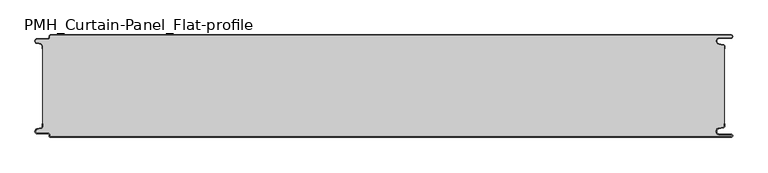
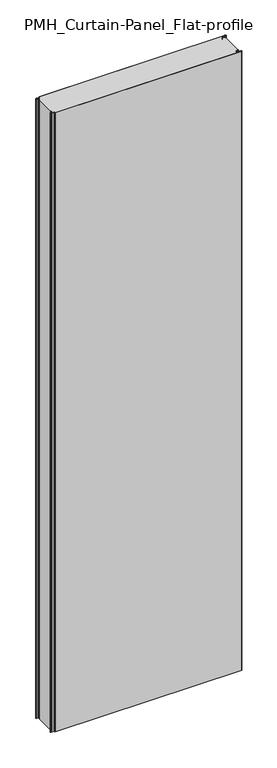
"""IFC4 building model written with IfcOpenShell, lengths in millimetres: plate geometry, PMH_Curtain-Panel_Flat-profile : ACH_PMH_Acoustic-Sectioning-Panel_150M."""

from ifc_helpers import new_model, si_unit, point, frame, frame_2d, origin, origin_with_axes, place, context, project, spatial, polyline, circle_curve, trimmed, segment, composite_curve, outline, extrude, source, transform, mapped, element, save
from ifc_brep_helpers import plane_surface, cylinder_surface, revolved_surface, advanced_brep


def pmh_curtain_panel_flat_profile_b9f61fe7(model_context):
    return source(origin(), model_context, "Body", "SolidModel", [
        advanced_brep(
        [(508.1, 0.0, 3500.0), (510.6, 2.5000002, 3500.0), (508.1, 5.0, 3500.0), (491.1, 5.0, 3500.0), (490.405407, 12.939231, 3500.0), (496.8514855, 14.0758491, 3500.0), (499.0, 16.6363492, 3500.0), (499.0, 20.0, 3500.0), (498.2, 20.0, 3500.0), (498.2, 16.6363492, 3500.0), (496.7125669, 14.8636953, 3500.0), (490.2664884, 13.7270771, 3500.0), (491.1, 4.2, 3500.0), (508.1, 4.2, 3500.0), (508.1, 0.8, 3500.0), (-487.4, 0.8, 3500.0), (-488.6, 2.0, 3500.0), (-488.6, 3.4, 3500.0), (-491.4, 6.2, 3500.0), (-506.9, 6.2, 3500.0), (-507.529863, 11.7282362, 3500.0), (-501.370137, 13.150321, 3500.0), (-499.2, 15.878557, 3500.0), (-499.2, 20.0, 3500.0), (-500.0, 20.0, 3500.0), (-500.0, 15.878557, 3500.0), (-501.5500978, 13.9298169, 3500.0), (-507.7098239, 12.507732, 3500.0), (-506.9, 5.4, 3500.0), (-491.4, 5.4, 3500.0), (-489.4, 3.4, 3500.0), (-489.4, 2.0, 3500.0), (-487.4, 0.0, 3500.0), (-487.4, 0.0, 0.0), (-489.4, 2.0, 0.0), (-489.4, 3.4, 0.0), (-491.4, 5.4, 0.0), (-506.9, 5.4, 0.0), (-507.7098239, 12.5077322, 0.0), (-501.5500979, 13.929817, 0.0), (-500.0, 15.878557, 0.0), (-500.0, 20.0, 0.0), (-499.2, 20.0, 0.0), (-499.2, 15.878557, 0.0), (-501.370137, 13.1503208, 0.0), (-507.529863, 11.728236, 0.0), (-506.9, 6.2, 0.0), (-491.4, 6.2, 0.0), (-488.6, 3.4, 0.0), (-488.6, 2.0, 0.0), (-487.4, 0.8, 0.0), (508.1, 0.8, 0.0), (508.1, 4.2, 0.0), (491.1, 4.2, 0.0), (490.2664884, 13.7270771, 0.0), (496.7125669, 14.8636953, 0.0), (498.2, 16.6363492, 0.0), (498.2, 20.0, 0.0), (499.0, 20.0, 0.0), (499.0, 16.6363492, 0.0), (496.8514855, 14.0758491, 0.0), (490.405407, 12.939231, 0.0), (491.1, 5.0, 0.0), (508.1, 5.0, 0.0), (510.6, 2.4999998, 0.0), (508.1, 0.0, 0.0)],
        [
            (0, 1, circle_curve(frame((508.1, 2.5, 3500.0), z_axis=(0.0, 0.0, 1.0), x_axis=(1.0, 0.0, 0.0)), 2.5)),
            (1, 2, circle_curve(frame((508.1, 2.5, 3500.0), z_axis=(0.0, 0.0, 1.0), x_axis=(1.0, 0.0, 0.0)), 2.5)),
            (2, 3),
            (3, 4, circle_curve(frame((491.1, 9.0, 3500.0), z_axis=(0.0, 0.0, -1.0), x_axis=(1.0, 0.0, 0.0)), 4.0)),
            (4, 5),
            (5, 6, circle_curve(frame((496.4, 16.6363492, 3500.0), z_axis=(0.0, 0.0, 1.0), x_axis=(1.0, 0.0, 0.0)), 2.6)),
            (6, 7),
            (7, 8),
            (8, 9),
            (9, 10, circle_curve(frame((496.4, 16.6363492, 3500.0), z_axis=(0.0, 0.0, -1.0), x_axis=(1.0, 0.0, 0.0)), 1.8)),
            (10, 11),
            (11, 12, circle_curve(frame((491.1, 9.0, 3500.0), z_axis=(0.0, 0.0, 1.0), x_axis=(1.0, 0.0, 0.0)), 4.8)),
            (12, 13),
            (13, 14, circle_curve(frame((508.1, 2.5, 3500.0), z_axis=(0.0, 0.0, -1.0), x_axis=(1.0, 0.0, 0.0)), 1.7)),
            (14, 15),
            (15, 16, circle_curve(frame((-487.4, 2.0, 3500.0), z_axis=(0.0, 0.0, -1.0), x_axis=(1.0, 0.0, 0.0)), 1.2)),
            (16, 17),
            (17, 18, circle_curve(frame((-491.4, 3.4, 3500.0), z_axis=(0.0, 0.0, 1.0), x_axis=(1.0, 0.0, 0.0)), 2.8)),
            (18, 19),
            (19, 20, circle_curve(frame((-506.9, 9.0, 3500.0), z_axis=(0.0, 0.0, -1.0), x_axis=(1.0, 0.0, 0.0)), 2.8)),
            (20, 21),
            (21, 22, circle_curve(frame((-502.0, 15.878557, 3500.0), z_axis=(0.0, 0.0, 1.0), x_axis=(1.0, 0.0, 0.0)), 2.8)),
            (22, 23),
            (23, 24),
            (24, 25),
            (25, 26, circle_curve(frame((-502.0, 15.878557, 3500.0), z_axis=(0.0, 0.0, -1.0), x_axis=(1.0, 0.0, 0.0)), 2.0)),
            (26, 27),
            (27, 28, circle_curve(frame((-506.9, 9.0, 3500.0), z_axis=(0.0, 0.0, 1.0), x_axis=(1.0, 0.0, 0.0)), 3.6)),
            (28, 29),
            (29, 30, circle_curve(frame((-491.4, 3.4, 3500.0), z_axis=(0.0, 0.0, -1.0), x_axis=(1.0, 0.0, 0.0)), 2.0)),
            (30, 31),
            (31, 32, circle_curve(frame((-487.4, 2.0, 3500.0), z_axis=(0.0, 0.0, 1.0), x_axis=(1.0, 0.0, 0.0)), 2.0)),
            (32, 0),
            (33, 34, circle_curve(frame((-487.4, 2.0, 0.0), z_axis=(0.0, 0.0, -1.0), x_axis=(1.0, 0.0, 0.0)), 2.0)),
            (34, 35),
            (35, 36, circle_curve(frame((-491.4, 3.4, 0.0), z_axis=(0.0, 0.0, 1.0), x_axis=(1.0, 0.0, 0.0)), 2.0)),
            (36, 37),
            (37, 38, circle_curve(frame((-506.9, 9.0, 0.0), z_axis=(0.0, 0.0, -1.0), x_axis=(1.0, 0.0, 0.0)), 3.6)),
            (38, 39),
            (39, 40, circle_curve(frame((-502.0, 15.878557, 0.0), z_axis=(0.0, 0.0, 1.0), x_axis=(1.0, 0.0, 0.0)), 2.0)),
            (40, 41),
            (41, 42),
            (42, 43),
            (43, 44, circle_curve(frame((-502.0, 15.878557, 0.0), z_axis=(0.0, 0.0, -1.0), x_axis=(1.0, 0.0, 0.0)), 2.8)),
            (44, 45),
            (45, 46, circle_curve(frame((-506.9, 9.0, 0.0), z_axis=(0.0, 0.0, 1.0), x_axis=(1.0, 0.0, 0.0)), 2.8)),
            (46, 47),
            (47, 48, circle_curve(frame((-491.4, 3.4, 0.0), z_axis=(0.0, 0.0, -1.0), x_axis=(1.0, 0.0, 0.0)), 2.8)),
            (48, 49),
            (49, 50, circle_curve(frame((-487.4, 2.0, 0.0), z_axis=(0.0, 0.0, 1.0), x_axis=(1.0, 0.0, 0.0)), 1.2)),
            (50, 51),
            (51, 52, circle_curve(frame((508.1, 2.5, 0.0), z_axis=(0.0, 0.0, 1.0), x_axis=(1.0, 0.0, 0.0)), 1.7)),
            (52, 53),
            (53, 54, circle_curve(frame((491.1, 9.0, 0.0), z_axis=(0.0, 0.0, -1.0), x_axis=(1.0, 0.0, 0.0)), 4.8)),
            (54, 55),
            (55, 56, circle_curve(frame((496.4, 16.6363492, 0.0), z_axis=(0.0, 0.0, 1.0), x_axis=(1.0, 0.0, 0.0)), 1.8)),
            (56, 57),
            (57, 58),
            (58, 59),
            (59, 60, circle_curve(frame((496.4, 16.6363492, 0.0), z_axis=(0.0, 0.0, -1.0), x_axis=(1.0, 0.0, 0.0)), 2.6)),
            (60, 61),
            (61, 62, circle_curve(frame((491.1, 9.0, 0.0), z_axis=(0.0, 0.0, 1.0), x_axis=(1.0, 0.0, 0.0)), 4.0)),
            (62, 63),
            (63, 64, circle_curve(frame((508.1, 2.5, 0.0), z_axis=(0.0, 0.0, -1.0), x_axis=(1.0, 0.0, 0.0)), 2.5)),
            (64, 65, circle_curve(frame((508.1, 2.5, 0.0), z_axis=(0.0, 0.0, -1.0), x_axis=(1.0, 0.0, 0.0)), 2.5)),
            (65, 33),
            (31, 34),
            (33, 32),
            (30, 35),
            (29, 36),
            (28, 37),
            (27, 38),
            (26, 39),
            (25, 40),
            (24, 41),
            (23, 42),
            (22, 43),
            (21, 44),
            (20, 45),
            (19, 46),
            (18, 47),
            (17, 48),
            (16, 49),
            (15, 50),
            (14, 51),
            (13, 52),
            (12, 53),
            (11, 54),
            (10, 55),
            (9, 56),
            (8, 57),
            (7, 58),
            (6, 59),
            (5, 60),
            (4, 61),
            (3, 62),
            (2, 63),
            (0, 65),
        ],
        [
            plane_surface(frame((-500.0, 0.0, 3500.0), z_axis=(0.0, 0.0, 1.0), x_axis=(0.0, -1.0, 0.0))),
            plane_surface(frame((-500.0, 0.0, 0.0), z_axis=(0.0, 0.0, -1.0), x_axis=(0.0, -1.0, 0.0))),
            cylinder_surface(frame((-487.4, 2.0, 3500.0), z_axis=(0.0, 0.0, 1.0), x_axis=(1.0, 0.0, 0.0)), 2.0),
            plane_surface(frame((-489.4, 2.0, 3500.0), z_axis=(-1.0, 0.0, 0.0), x_axis=(0.0, 0.0, -1.0))),
            revolved_surface(polyline([(-489.4, 3.4, 0.0), (-489.4, 3.4, 3500.0)]), (-491.4, 3.4, 3500.0), (0.0, 0.0, -1.0)),
            plane_surface(frame((-491.4, 5.4, 3500.0), z_axis=(0.0, -1.0, 0.0), x_axis=(0.0, 0.0, -1.0))),
            cylinder_surface(frame((-506.9, 9.0, 3500.0), z_axis=(0.0, 0.0, 1.0), x_axis=(1.0, 0.0, 0.0)), 3.6),
            plane_surface(frame((-507.7098239, 12.507732, 3500.0), z_axis=(-0.2249510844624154, 0.9743700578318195, 0.0), x_axis=(0.0, 0.0, -1.0))),
            revolved_surface(polyline([(-500.0, 15.878557, 0.0), (-500.0, 15.878557, 3500.0)]), (-502.0, 15.878557, 3500.0), (0.0, 0.0, -1.0)),
            plane_surface(frame((-500.0, 15.878557, 3500.0), z_axis=(-1.0, 0.0, 0.0), x_axis=(0.0, 0.0, -1.0))),
            plane_surface(frame((-500.0, 20.0, 3500.0), z_axis=(0.0, 1.0, 0.0), x_axis=(0.0, 0.0, -1.0))),
            plane_surface(frame((-499.2, 20.0, 3500.0), z_axis=(1.0, 0.0, 0.0), x_axis=(0.0, 0.0, -1.0))),
            cylinder_surface(frame((-502.0, 15.878557, 3500.0), z_axis=(0.0, 0.0, 1.0), x_axis=(1.0, 0.0, 0.0)), 2.8),
            plane_surface(frame((-501.370137, 13.150321, 3500.0), z_axis=(0.22495108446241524, -0.9743700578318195, 0.0), x_axis=(0.0, 0.0, -1.0))),
            revolved_surface(polyline([(-504.09999999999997, 9.0, 0.0), (-504.09999999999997, 9.0, 3500.0)]), (-506.9, 9.0, 3500.0), (0.0, 0.0, -1.0)),
            plane_surface(frame((-506.9, 6.2, 3500.0), z_axis=(0.0, 1.0, 0.0), x_axis=(0.0, 0.0, -1.0))),
            cylinder_surface(frame((-491.4, 3.4, 3500.0), z_axis=(0.0, 0.0, 1.0), x_axis=(1.0, 0.0, 0.0)), 2.8),
            plane_surface(frame((-488.6, 3.4, 3500.0), z_axis=(1.0, 0.0, 0.0), x_axis=(0.0, 0.0, -1.0))),
            revolved_surface(polyline([(-486.2, 2.0, 0.0), (-486.2, 2.0, 3500.0)]), (-487.4, 2.0, 3500.0), (0.0, 0.0, -1.0)),
            plane_surface(frame((-487.4, 0.8, 3500.0), z_axis=(0.0, 1.0, 0.0), x_axis=(0.0, 0.0, -1.0))),
            revolved_surface(polyline([(509.8, 2.5, 0.0), (509.8, 2.5, 3500.0)]), (508.1, 2.5, 3500.0), (0.0, 0.0, -1.0)),
            plane_surface(frame((508.1, 4.2, 3500.0), z_axis=(0.0, -1.0, 0.0), x_axis=(0.0, 0.0, -1.0))),
            cylinder_surface(frame((491.1, 9.0, 3500.0), z_axis=(0.0, 0.0, 1.0), x_axis=(1.0, 0.0, 0.0)), 4.8),
            plane_surface(frame((490.2664884, 13.7270771, 3500.0), z_axis=(-0.17364826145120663, 0.984807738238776, 0.0), x_axis=(0.0, 0.0, -1.0))),
            revolved_surface(polyline([(498.2, 16.6363492, 0.0), (498.2, 16.6363492, 3500.0)]), (496.4, 16.6363492, 3500.0), (0.0, 0.0, -1.0)),
            plane_surface(frame((498.2, 16.6363492, 3500.0), z_axis=(-1.0, 0.0, 0.0), x_axis=(0.0, 0.0, -1.0))),
            plane_surface(frame((498.2, 20.0, 3500.0), z_axis=(0.0, 1.0, 0.0), x_axis=(0.0, 0.0, -1.0))),
            plane_surface(frame((499.0, 20.0, 3500.0), z_axis=(1.0, 0.0, 0.0), x_axis=(0.0, 0.0, -1.0))),
            cylinder_surface(frame((496.4, 16.6363492, 3500.0), z_axis=(0.0, 0.0, 1.0), x_axis=(1.0, 0.0, 0.0)), 2.6),
            plane_surface(frame((496.8514855, 14.0758491, 3500.0), z_axis=(0.17364826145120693, -0.9848077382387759, 0.0), x_axis=(0.0, 0.0, -1.0))),
            revolved_surface(polyline([(495.1, 9.0, 0.0), (495.1, 9.0, 3500.0)]), (491.1, 9.0, 3500.0), (0.0, 0.0, -1.0)),
            plane_surface(frame((491.1, 5.0, 3500.0), z_axis=(0.0, 1.0, 0.0), x_axis=(0.0, 0.0, -1.0))),
            cylinder_surface(frame((508.1, 2.5, 3500.0), z_axis=(0.0, 0.0, 1.0), x_axis=(1.0, 0.0, 0.0)), 2.5),
            plane_surface(frame((490.5783588, 0.0, 3500.0), z_axis=(0.0, -1.0, 0.0), x_axis=(0.0, 0.0, -1.0))),
        ],
        [
            (0, [[1, 2, 3, 4, 5, 6, 7, 8, 9, 10, 11, 12, 13, 14, 15, 16, 17, 18, 19, 20, 21, 22, 23, 24, 25, 26, 27, 28, 29, 30, 31, 32, 33]]),
            (1, [[34, 35, 36, 37, 38, 39, 40, 41, 42, 43, 44, 45, 46, 47, 48, 49, 50, 51, 52, 53, 54, 55, 56, 57, 58, 59, 60, 61, 62, 63, 64, 65, 66]]),
            (2, [[67, -34, 68, -32]]),
            (3, [[69, -35, -67, -31]]),
            (4, [[70, -36, -69, -30]]),
            (5, [[71, -37, -70, -29]]),
            (6, [[72, -38, -71, -28]]),
            (7, [[73, -39, -72, -27]]),
            (8, [[74, -40, -73, -26]]),
            (9, [[75, -41, -74, -25]]),
            (10, [[76, -42, -75, -24]]),
            (11, [[77, -43, -76, -23]]),
            (12, [[78, -44, -77, -22]]),
            (13, [[79, -45, -78, -21]]),
            (14, [[80, -46, -79, -20]]),
            (15, [[81, -47, -80, -19]]),
            (16, [[82, -48, -81, -18]]),
            (17, [[83, -49, -82, -17]]),
            (18, [[84, -50, -83, -16]]),
            (19, [[85, -51, -84, -15]]),
            (20, [[86, -52, -85, -14]]),
            (21, [[87, -53, -86, -13]]),
            (22, [[88, -54, -87, -12]]),
            (23, [[89, -55, -88, -11]]),
            (24, [[90, -56, -89, -10]]),
            (25, [[91, -57, -90, -9]]),
            (26, [[92, -58, -91, -8]]),
            (27, [[93, -59, -92, -7]]),
            (28, [[94, -60, -93, -6]]),
            (29, [[95, -61, -94, -5]]),
            (30, [[96, -62, -95, -4]]),
            (31, [[97, -63, -96, -3]]),
            (32, [[-2, -1, 98, -65, -64, -97]]),
            (33, [[-68, -66, -98, -33]]),
        ],
    ),
        extrude(outline(composite_curve([segment(trimmed(circle_curve(frame_2d((-502.0, 134.1214426)), 2.8), [point((-499.2, 134.1214426))], [point((-501.370137, 136.8496788))], True, "CARTESIAN"), True, "CONTINUOUS"), segment(polyline([(-501.370137, 136.8496788), (-507.5298631, 138.2717638)]), True, "CONTINUOUS"), segment(trimmed(circle_curve(frame_2d((-506.9, 141.0)), 2.8), [point((-507.5298631, 138.2717638))], [point((-506.9, 143.8))], False, "CARTESIAN"), True, "CONTINUOUS"), segment(polyline([(-506.9, 143.8), (-491.4000001, 143.8)]), True, "CONTINUOUS"), segment(trimmed(circle_curve(frame_2d((-491.4000001, 146.6)), 2.8), [point((-491.4000001, 143.8))], [point((-488.6000001, 146.6))], True, "CARTESIAN"), True, "CONTINUOUS"), segment(polyline([(-488.6000001, 146.6), (-488.6000001, 148.0)]), True, "CONTINUOUS"), segment(trimmed(circle_curve(frame_2d((-487.4000001, 148.0)), 1.2), [point((-488.6000001, 148.0))], [point((-487.4000001, 149.2))], False, "CARTESIAN"), True, "CONTINUOUS"), segment(polyline([(-487.4000001, 149.2), (508.1, 149.2)]), True, "CONTINUOUS"), segment(trimmed(circle_curve(frame_2d((508.1, 147.5)), 1.7), [point((508.1, 149.2))], [point((508.1, 145.8))], False, "CARTESIAN"), True, "CONTINUOUS"), segment(polyline([(508.1, 145.8), (491.1, 145.8)]), True, "CONTINUOUS"), segment(trimmed(circle_curve(frame_2d((491.1, 141.0)), 4.8), [point((491.1, 145.8))], [point((490.2664883, 136.2729229))], True, "CARTESIAN"), True, "CONTINUOUS"), segment(polyline([(490.2664883, 136.2729229), (496.7125668, 135.1363047)]), True, "CONTINUOUS"), segment(trimmed(circle_curve(frame_2d((496.4, 133.3636508)), 1.8), [point((496.7125668, 135.1363047))], [point((498.2, 133.3636508))], False, "CARTESIAN"), True, "CONTINUOUS"), segment(polyline([(498.2, 133.3636508), (498.2, 16.6363492)]), True, "CONTINUOUS"), segment(trimmed(circle_curve(frame_2d((496.4, 16.6363492)), 1.8), [point((498.2, 16.6363492))], [point((496.7125668, 14.8636953))], False, "CARTESIAN"), True, "CONTINUOUS"), segment(polyline([(496.7125668, 14.8636953), (490.2664883, 13.7270771)]), True, "CONTINUOUS"), segment(trimmed(circle_curve(frame_2d((491.1, 9.0)), 4.8), [point((490.2664883, 13.7270771))], [point((491.1, 4.2))], True, "CARTESIAN"), True, "CONTINUOUS"), segment(polyline([(491.1, 4.2), (508.1, 4.2)]), True, "CONTINUOUS"), segment(trimmed(circle_curve(frame_2d((508.1, 2.5)), 1.7), [point((508.1, 4.2))], [point((508.1, 0.8))], False, "CARTESIAN"), True, "CONTINUOUS"), segment(polyline([(508.1, 0.8), (-487.4000001, 0.8)]), True, "CONTINUOUS"), segment(trimmed(circle_curve(frame_2d((-487.4000001, 2.0)), 1.2), [point((-487.4000001, 0.8))], [point((-488.6000001, 2.0))], False, "CARTESIAN"), True, "CONTINUOUS"), segment(polyline([(-488.6000001, 2.0), (-488.6000001, 3.4)]), True, "CONTINUOUS"), segment(trimmed(circle_curve(frame_2d((-491.4000001, 3.4)), 2.8), [point((-488.6000001, 3.4))], [point((-491.4000001, 6.2))], True, "CARTESIAN"), True, "CONTINUOUS"), segment(polyline([(-491.4000001, 6.2), (-506.9, 6.2)]), True, "CONTINUOUS"), segment(trimmed(circle_curve(frame_2d((-506.9, 9.0)), 2.8), [point((-506.9, 6.2))], [point((-507.5298631, 11.7282362))], False, "CARTESIAN"), True, "CONTINUOUS"), segment(polyline([(-507.5298631, 11.7282362), (-501.370137, 13.1503212)]), True, "CONTINUOUS"), segment(trimmed(circle_curve(frame_2d((-502.0, 15.8785573)), 2.8), [point((-501.370137, 13.1503212))], [point((-499.2, 15.8785573))], True, "CARTESIAN"), True, "CONTINUOUS"), segment(polyline([(-499.2, 15.8785573), (-499.2, 134.1214426)]), True, "CONTINUOUS")], self_intersect=False)), origin_with_axes(), (0.0, 0.0, 1.0), 3500.0),
        advanced_brep(
        [(-487.4, 150.0, 3500.0), (-489.4, 148.0, 3500.0), (-489.4, 146.6, 3500.0), (-491.4, 144.6, 3500.0), (-506.9, 144.6, 3500.0), (-507.7098239, 137.4922678, 3500.0), (-501.5500979, 136.070183, 3500.0), (-500.0, 134.121443, 3500.0), (-500.0, 130.0, 3500.0), (-499.2, 130.0, 3500.0), (-499.2, 134.121443, 3500.0), (-501.370137, 136.8496792, 3500.0), (-507.529863, 138.271764, 3500.0), (-506.9, 143.8, 3500.0), (-491.4, 143.8, 3500.0), (-488.6, 146.6, 3500.0), (-488.6, 148.0, 3500.0), (-487.4, 149.2, 3500.0), (508.1, 149.2, 3500.0), (508.1, 145.8, 3500.0), (491.1, 145.8, 3500.0), (490.2664884, 136.2729229, 3500.0), (496.7125669, 135.1363047, 3500.0), (498.2, 133.3636508, 3500.0), (498.2, 130.0, 3500.0), (499.0, 130.0, 3500.0), (499.0, 133.3636508, 3500.0), (496.8514855, 135.9241509, 3500.0), (490.405407, 137.060769, 3500.0), (491.1, 145.0, 3500.0), (508.1, 145.0, 3500.0), (510.6, 147.5000002, 3500.0), (508.1, 150.0, 3500.0), (508.1, 150.0, 0.0), (510.6, 147.4999998, 0.0), (508.1, 145.0, 0.0), (491.1, 145.0, 0.0), (490.405407, 137.060769, 0.0), (496.8514855, 135.9241509, 0.0), (499.0, 133.3636508, 0.0), (499.0, 130.0, 0.0), (498.2, 130.0, 0.0), (498.2, 133.3636508, 0.0), (496.7125669, 135.1363047, 0.0), (490.2664884, 136.2729229, 0.0), (491.1, 145.8, 0.0), (508.1, 145.8, 0.0), (508.1, 149.2, 0.0), (-487.4, 149.2, 0.0), (-488.6, 148.0, 0.0), (-488.6, 146.6, 0.0), (-491.4, 143.8, 0.0), (-506.9, 143.8, 0.0), (-507.529863, 138.2717638, 0.0), (-501.370137, 136.849679, 0.0), (-499.2, 134.121443, 0.0), (-499.2, 130.0, 0.0), (-500.0, 130.0, 0.0), (-500.0, 134.121443, 0.0), (-501.5500978, 136.0701831, 0.0), (-507.7098239, 137.492268, 0.0), (-506.9, 144.6, 0.0), (-491.4, 144.6, 0.0), (-489.4, 146.6, 0.0), (-489.4, 148.0, 0.0), (-487.4, 150.0, 0.0)],
        [
            (0, 1, circle_curve(frame((-487.4, 148.0, 3500.0), z_axis=(0.0, 0.0, 1.0), x_axis=(1.0, 0.0, 0.0)), 2.0)),
            (1, 2),
            (2, 3, circle_curve(frame((-491.4, 146.6, 3500.0), z_axis=(0.0, 0.0, -1.0), x_axis=(1.0, 0.0, 0.0)), 2.0)),
            (3, 4),
            (4, 5, circle_curve(frame((-506.9, 141.0, 3500.0), z_axis=(0.0, 0.0, 1.0), x_axis=(1.0, 0.0, 0.0)), 3.6)),
            (5, 6),
            (6, 7, circle_curve(frame((-502.0, 134.121443, 3500.0), z_axis=(0.0, 0.0, -1.0), x_axis=(1.0, 0.0, 0.0)), 2.0)),
            (7, 8),
            (8, 9),
            (9, 10),
            (10, 11, circle_curve(frame((-502.0, 134.121443, 3500.0), z_axis=(0.0, 0.0, 1.0), x_axis=(1.0, 0.0, 0.0)), 2.8)),
            (11, 12),
            (12, 13, circle_curve(frame((-506.9, 141.0, 3500.0), z_axis=(0.0, 0.0, -1.0), x_axis=(1.0, 0.0, 0.0)), 2.8)),
            (13, 14),
            (14, 15, circle_curve(frame((-491.4, 146.6, 3500.0), z_axis=(0.0, 0.0, 1.0), x_axis=(1.0, 0.0, 0.0)), 2.8)),
            (15, 16),
            (16, 17, circle_curve(frame((-487.4, 148.0, 3500.0), z_axis=(0.0, 0.0, -1.0), x_axis=(1.0, 0.0, 0.0)), 1.2)),
            (17, 18),
            (18, 19, circle_curve(frame((508.1, 147.5, 3500.0), z_axis=(0.0, 0.0, -1.0), x_axis=(1.0, 0.0, 0.0)), 1.7)),
            (19, 20),
            (20, 21, circle_curve(frame((491.1, 141.0, 3500.0), z_axis=(0.0, 0.0, 1.0), x_axis=(1.0, 0.0, 0.0)), 4.8)),
            (21, 22),
            (22, 23, circle_curve(frame((496.4, 133.3636508, 3500.0), z_axis=(0.0, 0.0, -1.0), x_axis=(1.0, 0.0, 0.0)), 1.8)),
            (23, 24),
            (24, 25),
            (25, 26),
            (26, 27, circle_curve(frame((496.4, 133.3636508, 3500.0), z_axis=(0.0, 0.0, 1.0), x_axis=(1.0, 0.0, 0.0)), 2.6)),
            (27, 28),
            (28, 29, circle_curve(frame((491.1, 141.0, 3500.0), z_axis=(0.0, 0.0, -1.0), x_axis=(1.0, 0.0, 0.0)), 4.0)),
            (29, 30),
            (30, 31, circle_curve(frame((508.1, 147.5, 3500.0), z_axis=(0.0, 0.0, 1.0), x_axis=(1.0, 0.0, 0.0)), 2.5)),
            (31, 32, circle_curve(frame((508.1, 147.5, 3500.0), z_axis=(0.0, 0.0, 1.0), x_axis=(1.0, 0.0, 0.0)), 2.5)),
            (32, 0),
            (33, 34, circle_curve(frame((508.1, 147.5, 0.0), z_axis=(0.0, 0.0, -1.0), x_axis=(1.0, 0.0, 0.0)), 2.5)),
            (34, 35, circle_curve(frame((508.1, 147.5, 0.0), z_axis=(0.0, 0.0, -1.0), x_axis=(1.0, 0.0, 0.0)), 2.5)),
            (35, 36),
            (36, 37, circle_curve(frame((491.1, 141.0, 0.0), z_axis=(0.0, 0.0, 1.0), x_axis=(1.0, 0.0, 0.0)), 4.0)),
            (37, 38),
            (38, 39, circle_curve(frame((496.4, 133.3636508, 0.0), z_axis=(0.0, 0.0, -1.0), x_axis=(1.0, 0.0, 0.0)), 2.6)),
            (39, 40),
            (40, 41),
            (41, 42),
            (42, 43, circle_curve(frame((496.4, 133.3636508, 0.0), z_axis=(0.0, 0.0, 1.0), x_axis=(1.0, 0.0, 0.0)), 1.8)),
            (43, 44),
            (44, 45, circle_curve(frame((491.1, 141.0, 0.0), z_axis=(0.0, 0.0, -1.0), x_axis=(1.0, 0.0, 0.0)), 4.8)),
            (45, 46),
            (46, 47, circle_curve(frame((508.1, 147.5, 0.0), z_axis=(0.0, 0.0, 1.0), x_axis=(1.0, 0.0, 0.0)), 1.7)),
            (47, 48),
            (48, 49, circle_curve(frame((-487.4, 148.0, 0.0), z_axis=(0.0, 0.0, 1.0), x_axis=(1.0, 0.0, 0.0)), 1.2)),
            (49, 50),
            (50, 51, circle_curve(frame((-491.4, 146.6, 0.0), z_axis=(0.0, 0.0, -1.0), x_axis=(1.0, 0.0, 0.0)), 2.8)),
            (51, 52),
            (52, 53, circle_curve(frame((-506.9, 141.0, 0.0), z_axis=(0.0, 0.0, 1.0), x_axis=(1.0, 0.0, 0.0)), 2.8)),
            (53, 54),
            (54, 55, circle_curve(frame((-502.0, 134.121443, 0.0), z_axis=(0.0, 0.0, -1.0), x_axis=(1.0, 0.0, 0.0)), 2.8)),
            (55, 56),
            (56, 57),
            (57, 58),
            (58, 59, circle_curve(frame((-502.0, 134.121443, 0.0), z_axis=(0.0, 0.0, 1.0), x_axis=(1.0, 0.0, 0.0)), 2.0)),
            (59, 60),
            (60, 61, circle_curve(frame((-506.9, 141.0, 0.0), z_axis=(0.0, 0.0, -1.0), x_axis=(1.0, 0.0, 0.0)), 3.6)),
            (61, 62),
            (62, 63, circle_curve(frame((-491.4, 146.6, 0.0), z_axis=(0.0, 0.0, 1.0), x_axis=(1.0, 0.0, 0.0)), 2.0)),
            (63, 64),
            (64, 65, circle_curve(frame((-487.4, 148.0, 0.0), z_axis=(0.0, 0.0, -1.0), x_axis=(1.0, 0.0, 0.0)), 2.0)),
            (65, 33),
            (32, 33),
            (65, 0),
            (30, 35),
            (29, 36),
            (28, 37),
            (27, 38),
            (26, 39),
            (25, 40),
            (24, 41),
            (23, 42),
            (22, 43),
            (21, 44),
            (20, 45),
            (19, 46),
            (18, 47),
            (17, 48),
            (16, 49),
            (15, 50),
            (14, 51),
            (13, 52),
            (12, 53),
            (11, 54),
            (10, 55),
            (9, 56),
            (8, 57),
            (7, 58),
            (6, 59),
            (5, 60),
            (4, 61),
            (3, 62),
            (2, 63),
            (1, 64),
        ],
        [
            plane_surface(frame((-500.0, 150.0, 3500.0), z_axis=(0.0, 0.0, 1.0), x_axis=(0.0, -1.0, 0.0))),
            plane_surface(frame((-500.0, 150.0, 0.0), z_axis=(0.0, 0.0, -1.0), x_axis=(0.0, -1.0, 0.0))),
            plane_surface(frame((490.5783588, 150.0, 3500.0), z_axis=(0.0, 1.0, 0.0), x_axis=(0.0, 0.0, -1.0))),
            cylinder_surface(frame((508.1, 147.5, 3500.0), z_axis=(0.0, 0.0, 1.0), x_axis=(1.0, 0.0, 0.0)), 2.5),
            plane_surface(frame((508.1, 145.0, 3500.0), z_axis=(0.0, -1.0, 0.0), x_axis=(0.0, 0.0, -1.0))),
            revolved_surface(polyline([(495.1, 141.0, 0.0), (495.1, 141.0, 3500.0)]), (491.1, 141.0, 3500.0), (0.0, 0.0, -1.0)),
            plane_surface(frame((490.405407, 137.060769, 3500.0), z_axis=(0.17364826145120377, 0.9848077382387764, 0.0), x_axis=(0.0, 0.0, -1.0))),
            cylinder_surface(frame((496.4, 133.3636508, 3500.0), z_axis=(0.0, 0.0, 1.0), x_axis=(1.0, 0.0, 0.0)), 2.6),
            plane_surface(frame((499.0, 133.3636508, 3500.0), z_axis=(1.0, 0.0, 0.0), x_axis=(0.0, 0.0, -1.0))),
            plane_surface(frame((499.0, 130.0, 3500.0), z_axis=(0.0, -1.0, 0.0), x_axis=(0.0, 0.0, -1.0))),
            plane_surface(frame((498.2, 130.0, 3500.0), z_axis=(-1.0, 0.0, 0.0), x_axis=(0.0, 0.0, -1.0))),
            revolved_surface(polyline([(498.2, 133.3636508, 0.0), (498.2, 133.3636508, 3500.0)]), (496.4, 133.3636508, 3500.0), (0.0, 0.0, -1.0)),
            plane_surface(frame((496.7125669, 135.1363047, 3500.0), z_axis=(-0.17364826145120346, -0.9848077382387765, 0.0), x_axis=(0.0, 0.0, -1.0))),
            cylinder_surface(frame((491.1, 141.0, 3500.0), z_axis=(0.0, 0.0, 1.0), x_axis=(1.0, 0.0, 0.0)), 4.8),
            plane_surface(frame((491.1, 145.8, 3500.0), z_axis=(0.0, 1.0, 0.0), x_axis=(0.0, 0.0, -1.0))),
            revolved_surface(polyline([(509.8, 147.5, 0.0), (509.8, 147.5, 3500.0)]), (508.1, 147.5, 3500.0), (0.0, 0.0, -1.0)),
            plane_surface(frame((508.1, 149.2, 3500.0), z_axis=(0.0, -1.0, 0.0), x_axis=(0.0, 0.0, -1.0))),
            revolved_surface(polyline([(-486.2, 148.0, 0.0), (-486.2, 148.0, 3500.0)]), (-487.4, 148.0, 3500.0), (0.0, 0.0, -1.0)),
            plane_surface(frame((-488.6, 148.0, 3500.0), z_axis=(1.0, 0.0, 0.0), x_axis=(0.0, 0.0, -1.0))),
            cylinder_surface(frame((-491.4, 146.6, 3500.0), z_axis=(0.0, 0.0, 1.0), x_axis=(1.0, 0.0, 0.0)), 2.8),
            plane_surface(frame((-491.4, 143.8, 3500.0), z_axis=(0.0, -1.0, 0.0), x_axis=(0.0, 0.0, -1.0))),
            revolved_surface(polyline([(-504.09999999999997, 141.0, 0.0), (-504.09999999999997, 141.0, 3500.0)]), (-506.9, 141.0, 3500.0), (0.0, 0.0, -1.0)),
            plane_surface(frame((-507.529863, 138.271764, 3500.0), z_axis=(0.2249510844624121, 0.9743700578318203, 0.0), x_axis=(0.0, 0.0, -1.0))),
            cylinder_surface(frame((-502.0, 134.121443, 3500.0), z_axis=(0.0, 0.0, 1.0), x_axis=(1.0, 0.0, 0.0)), 2.8),
            plane_surface(frame((-499.2, 134.121443, 3500.0), z_axis=(1.0, 0.0, 0.0), x_axis=(0.0, 0.0, -1.0))),
            plane_surface(frame((-499.2, 130.0, 3500.0), z_axis=(0.0, -1.0, 0.0), x_axis=(0.0, 0.0, -1.0))),
            plane_surface(frame((-500.0, 130.0, 3500.0), z_axis=(-1.0, 0.0, 0.0), x_axis=(0.0, 0.0, -1.0))),
            revolved_surface(polyline([(-500.0, 134.121443, 0.0), (-500.0, 134.121443, 3500.0)]), (-502.0, 134.121443, 3500.0), (0.0, 0.0, -1.0)),
            plane_surface(frame((-501.5500979, 136.070183, 3500.0), z_axis=(-0.22495108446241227, -0.9743700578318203, 0.0), x_axis=(0.0, 0.0, -1.0))),
            cylinder_surface(frame((-506.9, 141.0, 3500.0), z_axis=(0.0, 0.0, 1.0), x_axis=(1.0, 0.0, 0.0)), 3.6),
            plane_surface(frame((-506.9, 144.6, 3500.0), z_axis=(0.0, 1.0, 0.0), x_axis=(0.0, 0.0, -1.0))),
            revolved_surface(polyline([(-489.4, 146.6, 0.0), (-489.4, 146.6, 3500.0)]), (-491.4, 146.6, 3500.0), (0.0, 0.0, -1.0)),
            plane_surface(frame((-489.4, 146.6, 3500.0), z_axis=(-1.0, 0.0, 0.0), x_axis=(0.0, 0.0, -1.0))),
            cylinder_surface(frame((-487.4, 148.0, 3500.0), z_axis=(0.0, 0.0, 1.0), x_axis=(1.0, 0.0, 0.0)), 2.0),
        ],
        [
            (0, [[1, 2, 3, 4, 5, 6, 7, 8, 9, 10, 11, 12, 13, 14, 15, 16, 17, 18, 19, 20, 21, 22, 23, 24, 25, 26, 27, 28, 29, 30, 31, 32, 33]]),
            (1, [[34, 35, 36, 37, 38, 39, 40, 41, 42, 43, 44, 45, 46, 47, 48, 49, 50, 51, 52, 53, 54, 55, 56, 57, 58, 59, 60, 61, 62, 63, 64, 65, 66]]),
            (2, [[67, -66, 68, -33]]),
            (3, [[-32, -31, 69, -35, -34, -67]]),
            (4, [[70, -36, -69, -30]]),
            (5, [[71, -37, -70, -29]]),
            (6, [[72, -38, -71, -28]]),
            (7, [[73, -39, -72, -27]]),
            (8, [[74, -40, -73, -26]]),
            (9, [[75, -41, -74, -25]]),
            (10, [[76, -42, -75, -24]]),
            (11, [[77, -43, -76, -23]]),
            (12, [[78, -44, -77, -22]]),
            (13, [[79, -45, -78, -21]]),
            (14, [[80, -46, -79, -20]]),
            (15, [[81, -47, -80, -19]]),
            (16, [[82, -48, -81, -18]]),
            (17, [[83, -49, -82, -17]]),
            (18, [[84, -50, -83, -16]]),
            (19, [[85, -51, -84, -15]]),
            (20, [[86, -52, -85, -14]]),
            (21, [[87, -53, -86, -13]]),
            (22, [[88, -54, -87, -12]]),
            (23, [[89, -55, -88, -11]]),
            (24, [[90, -56, -89, -10]]),
            (25, [[91, -57, -90, -9]]),
            (26, [[92, -58, -91, -8]]),
            (27, [[93, -59, -92, -7]]),
            (28, [[94, -60, -93, -6]]),
            (29, [[95, -61, -94, -5]]),
            (30, [[96, -62, -95, -4]]),
            (31, [[97, -63, -96, -3]]),
            (32, [[98, -64, -97, -2]]),
            (33, [[-68, -65, -98, -1]]),
        ],
    ),
    ])


if __name__ == "__main__":
    model = new_model("IFC4")
    model_context = context("Model", 3, world=origin())
    ifc_project = project(units=[si_unit("LENGTHUNIT", "METRE", prefix="MILLI")], contexts=[model_context])
    site = spatial("IfcSite", under=ifc_project)
    building = spatial("IfcBuilding", under=site)
    placement = place(None, origin())
    pmh_curtain_panel_flat_profile_shape = pmh_curtain_panel_flat_profile_b9f61fe7(model_context)
    element("IfcPlate", 1, ObjectType="PMH_Curtain-Panel_Flat-profile : ACH_PMH_Acoustic-Sectioning-Panel_150M", at=placement, inside=building, context=model_context, shape_type="MappedRepresentation", body=[
        mapped(pmh_curtain_panel_flat_profile_shape, transform((0.0, 0.0, 0.0), x_axis=(1.0, 0.0, 0.0), y_axis=(0.0, 1.0, 0.0), z_axis=(0.0, 0.0, 1.0))),
    ])
    save(model, "model.ifc")
